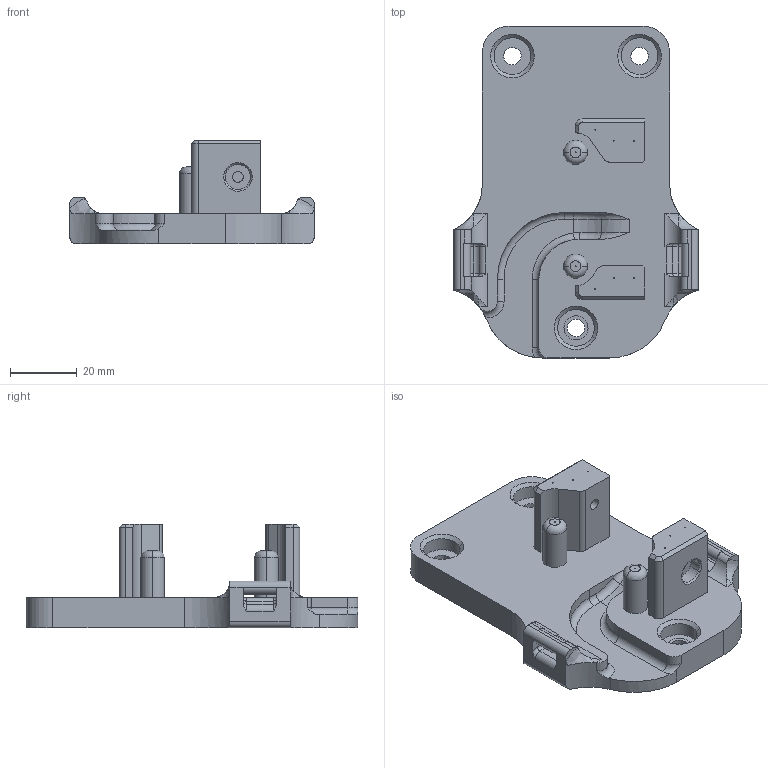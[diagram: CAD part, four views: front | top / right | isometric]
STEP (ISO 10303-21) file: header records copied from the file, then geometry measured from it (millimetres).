
FILE_DESCRIPTION(('CATIA V5 STEP Exchange'),'2;1');
FILE_NAME('E:\Dropbox\3D Printer Fan Duct Designs\1.) Artillery Sidewinder X1\3D Models\5015 Ducts\HEMERA_MATRIX_E3D\BONUS_BRACKET\BRACKET WHEELS_Inserts.stp','2021-10-25T23:25:23+00:00',('none'),('none'),'CATIA Version 5 Release 20 SP 1 (IN-10)','CATIA V5 STEP AP214','none');
FILE_SCHEMA(('AUTOMOTIVE_DESIGN { 1 0 10303 214 1 1 1 1 }'));
Length unit declared in the file: millimetre
Products named in the file (1): SUPPORTO_PER_RUOTE
Bounding box: 73 x 99.2 x 31 mm (x, y, z)
Volume: 57026.6 mm3; surface area: 19619.4 mm2
Topology: 2 solids, 2 shells, 676 faces, 1800 edges, 1143 vertices
Faces by surface type: bspline 358, cylinder 207, plane 64, torus 24, cone 23
Entity records: 21477 total; most frequent: CARTESIAN_POINT 8961, ORIENTED_EDGE 3600, EDGE_CURVE 1800, DIRECTION 1293, VERTEX_POINT 1143, EDGE_LOOP 721, ADVANCED_FACE 676, FACE_OUTER_BOUND 676
